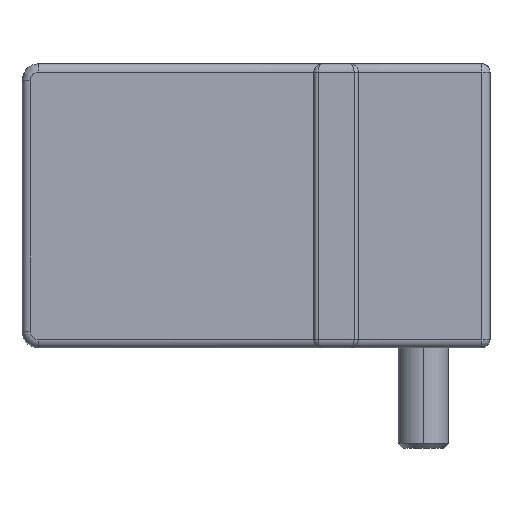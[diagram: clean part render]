
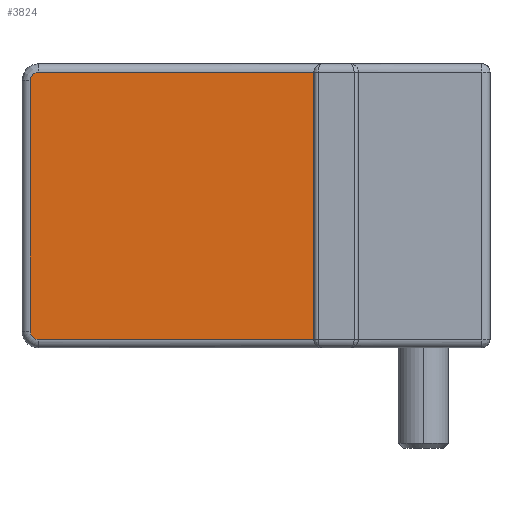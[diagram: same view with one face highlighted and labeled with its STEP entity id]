
A CAD part, front view. The second image highlights one B-rep face of the part: STEP entity #3824.
In plain terms, the highlighted planar face has unit normal (0, -1, 0).
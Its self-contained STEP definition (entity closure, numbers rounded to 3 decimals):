
#292 = VECTOR ( 'NONE', #2291, 1000. ) ;
#412 = CARTESIAN_POINT ( 'NONE',  ( -20.358, -4.788, 16.496 ) ) ;
#445 = CARTESIAN_POINT ( 'NONE',  ( -20.28, -4.788, 16.5 ) ) ;
#481 = VERTEX_POINT ( 'NONE', #4596 ) ;
#558 = CARTESIAN_POINT ( 'NONE',  ( -20.404, -4.788, 16.485 ) ) ;
#653 = EDGE_CURVE ( 'NONE', #1381, #1162, #10089, .T. ) ;
#787 = DIRECTION ( 'NONE',  ( 0., 0., -1. ) ) ;
#943 = DIRECTION ( 'NONE',  ( 0., 0., 1. ) ) ;
#1162 = VERTEX_POINT ( 'NONE', #5213 ) ;
#1252 = CARTESIAN_POINT ( 'NONE',  ( -20.715, -4.788, 16.246 ) ) ;
#1381 = VERTEX_POINT ( 'NONE', #7876 ) ;
#1540 = EDGE_CURVE ( 'NONE', #1583, #6531, #1547, .T. ) ;
#1547 = LINE ( 'NONE', #5646, #6452 ) ;
#1583 = VERTEX_POINT ( 'NONE', #4043 ) ;
#1594 = AXIS2_PLACEMENT_3D ( 'NONE', #9901, #7612, #2922 ) ;
#1917 = ORIENTED_EDGE ( 'NONE', *, *, #7358, .T. ) ;
#2033 = CARTESIAN_POINT ( 'NONE',  ( -20.78, -4.788, 16.064 ) ) ;
#2291 = DIRECTION ( 'NONE',  ( 1., 0., 0. ) ) ;
#2391 = LINE ( 'NONE', #3122, #292 ) ;
#2548 = DIRECTION ( 'NONE',  ( -1., 0., 0. ) ) ;
#2595 = ORIENTED_EDGE ( 'NONE', *, *, #9331, .T. ) ;
#2611 = ORIENTED_EDGE ( 'NONE', *, *, #10090, .T. ) ;
#2653 = PLANE ( 'NONE',  #9511 ) ;
#2830 = CARTESIAN_POINT ( 'NONE',  ( -20.448, -4.788, 16.471 ) ) ;
#2922 = DIRECTION ( 'NONE',  ( -1., 0., 0. ) ) ;
#3041 = CARTESIAN_POINT ( 'NONE',  ( -20.78, -4.788, 17. ) ) ;
#3122 = CARTESIAN_POINT ( 'NONE',  ( -21.28, -4.788, 0.5 ) ) ;
#3250 = EDGE_LOOP ( 'NONE', ( #2595, #8833, #5856, #1917, #9916, #2611 ) ) ;
#3374 = DIRECTION ( 'NONE',  ( 0., 0., -1. ) ) ;
#3631 = CARTESIAN_POINT ( 'NONE',  ( -20.69, -4.788, 16.29 ) ) ;
#3824 = ADVANCED_FACE ( 'NONE', ( #7184 ), #2653, .T. ) ;
#4043 = CARTESIAN_POINT ( 'NONE',  ( -3.815, -4.788, 0.5 ) ) ;
#4077 = EDGE_CURVE ( 'NONE', #1162, #7020, #6195, .T. ) ;
#4260 = VECTOR ( 'NONE', #787, 1000. ) ;
#4596 = CARTESIAN_POINT ( 'NONE',  ( -20.28, -4.788, 16.5 ) ) ;
#4923 = CARTESIAN_POINT ( 'NONE',  ( -3.815, -4.788, 16.5 ) ) ;
#5174 = CARTESIAN_POINT ( 'NONE',  ( -20.658, -4.788, 16.329 ) ) ;
#5213 = CARTESIAN_POINT ( 'NONE',  ( -20.78, -4.788, 1. ) ) ;
#5240 = CARTESIAN_POINT ( 'NONE',  ( -20.768, -4.788, 16.125 ) ) ;
#5646 = CARTESIAN_POINT ( 'NONE',  ( -3.815, -4.788, 17. ) ) ;
#5856 = ORIENTED_EDGE ( 'NONE', *, *, #4077, .T. ) ;
#5941 = CARTESIAN_POINT ( 'NONE',  ( -20.528, -4.788, 16.44 ) ) ;
#6041 = CARTESIAN_POINT ( 'NONE',  ( -20.311, -4.788, 16.5 ) ) ;
#6195 = CIRCLE ( 'NONE', #1594, 0.5 ) ;
#6452 = VECTOR ( 'NONE', #943, 1000. ) ;
#6531 = VERTEX_POINT ( 'NONE', #4923 ) ;
#6726 = CARTESIAN_POINT ( 'NONE',  ( -20.731, -4.788, 16.216 ) ) ;
#7020 = VERTEX_POINT ( 'NONE', #8628 ) ;
#7128 = LINE ( 'NONE', #8804, #8593 ) ;
#7184 = FACE_OUTER_BOUND ( 'NONE', #3250, .T. ) ;
#7358 = EDGE_CURVE ( 'NONE', #7020, #1583, #2391, .T. ) ;
#7612 = DIRECTION ( 'NONE',  ( 0., -1., 0. ) ) ;
#7876 = CARTESIAN_POINT ( 'NONE',  ( -20.78, -4.788, 16. ) ) ;
#8051 = DIRECTION ( 'NONE',  ( 0., -1., 0. ) ) ;
#8157 = B_SPLINE_CURVE_WITH_KNOTS ( 'NONE', 3,
 ( #445, #6041, #412, #558, #9044, #2830, #5941, #9784, #5174, #3631, #1252, #6726, #9877, #5240, #2033, #8340 ),
 .UNSPECIFIED., .F., .F.,
 ( 4, 1, 2, 2, 2, 1, 2, 2, 4 ),
 ( 0., 0.125, 0.188, 0.25, 0.5, 0.625, 0.688, 0.75, 1. ),
 .UNSPECIFIED. ) ;
#8340 = CARTESIAN_POINT ( 'NONE',  ( -20.78, -4.788, 16. ) ) ;
#8593 = VECTOR ( 'NONE', #2548, 1000. ) ;
#8628 = CARTESIAN_POINT ( 'NONE',  ( -20.28, -4.788, 0.5 ) ) ;
#8804 = CARTESIAN_POINT ( 'NONE',  ( -21.28, -4.788, 16.5 ) ) ;
#8833 = ORIENTED_EDGE ( 'NONE', *, *, #653, .T. ) ;
#8938 = CARTESIAN_POINT ( 'NONE',  ( -21.28, -4.788, 17. ) ) ;
#9044 = CARTESIAN_POINT ( 'NONE',  ( -20.434, -4.788, 16.476 ) ) ;
#9331 = EDGE_CURVE ( 'NONE', #481, #1381, #8157, .T. ) ;
#9511 = AXIS2_PLACEMENT_3D ( 'NONE', #8938, #8051, #3374 ) ;
#9784 = CARTESIAN_POINT ( 'NONE',  ( -20.585, -4.788, 16.402 ) ) ;
#9877 = CARTESIAN_POINT ( 'NONE',  ( -20.739, -4.788, 16.199 ) ) ;
#9901 = CARTESIAN_POINT ( 'NONE',  ( -20.28, -4.788, 1. ) ) ;
#9916 = ORIENTED_EDGE ( 'NONE', *, *, #1540, .T. ) ;
#10089 = LINE ( 'NONE', #3041, #4260 ) ;
#10090 = EDGE_CURVE ( 'NONE', #6531, #481, #7128, .T. ) ;
